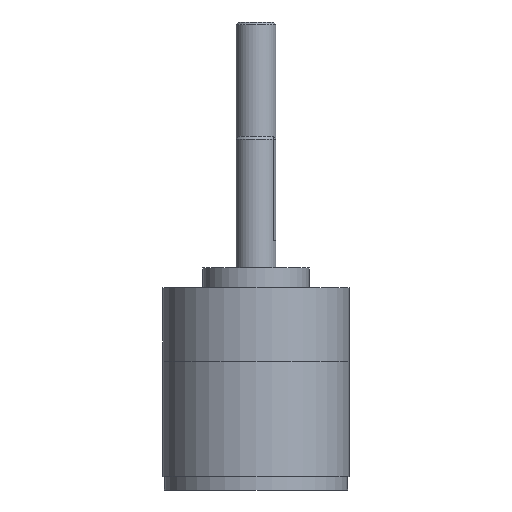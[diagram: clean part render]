
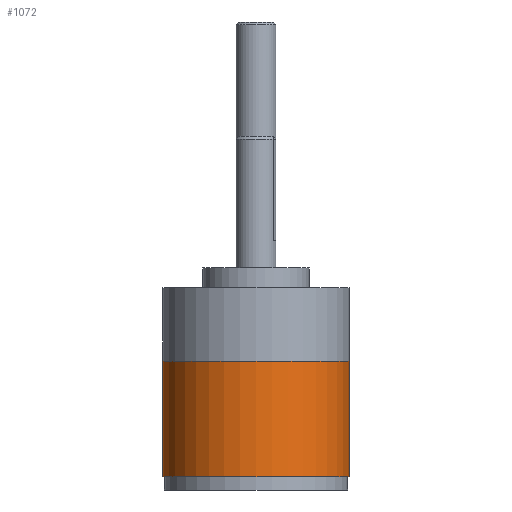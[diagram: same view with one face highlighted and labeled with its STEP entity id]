
A CAD part, left-side view. The second image highlights one B-rep face of the part: STEP entity #1072.
In plain terms, the highlighted cylindrical face has radius 7 mm (diameter 14 mm), a full revolution.
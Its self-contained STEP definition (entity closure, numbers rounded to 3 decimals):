
#1005=CYLINDRICAL_SURFACE('',#3263,7.);
#1072=ADVANCED_FACE('',(#1372,#1373),#1005,.T.);
#1372=FACE_BOUND('',#1573,.T.);
#1373=FACE_BOUND('',#1574,.T.);
#1573=EDGE_LOOP('',(#1880));
#1574=EDGE_LOOP('',(#1881));
#1880=ORIENTED_EDGE('',*,*,#2781,.F.);
#1881=ORIENTED_EDGE('',*,*,#2790,.T.);
#2526=VERTEX_POINT('',#4153);
#2535=VERTEX_POINT('',#4176);
#2781=EDGE_CURVE('',#2526,#2526,#3113,.T.);
#2790=EDGE_CURVE('',#2535,#2535,#3122,.T.);
#3113=CIRCLE('',#3247,7.);
#3122=CIRCLE('',#3261,7.);
#3247=AXIS2_PLACEMENT_3D('',#4152,#3544,#3545);
#3261=AXIS2_PLACEMENT_3D('',#4175,#3572,#3573);
#3263=AXIS2_PLACEMENT_3D('',#4178,#3576,#3577);
#3544=DIRECTION('',(0.,0.,-1.));
#3545=DIRECTION('',(1.,0.,0.));
#3572=DIRECTION('',(0.,0.,-1.));
#3573=DIRECTION('',(1.,0.,0.));
#3576=DIRECTION('',(0.,0.,1.));
#3577=DIRECTION('',(1.,0.,0.));
#4152=CARTESIAN_POINT('',(0.,0.,1.));
#4153=CARTESIAN_POINT('',(7.,0.,1.));
#4175=CARTESIAN_POINT('',(0.,0.,9.699));
#4176=CARTESIAN_POINT('',(7.,0.,9.699));
#4178=CARTESIAN_POINT('',(0.,0.,9.7));
